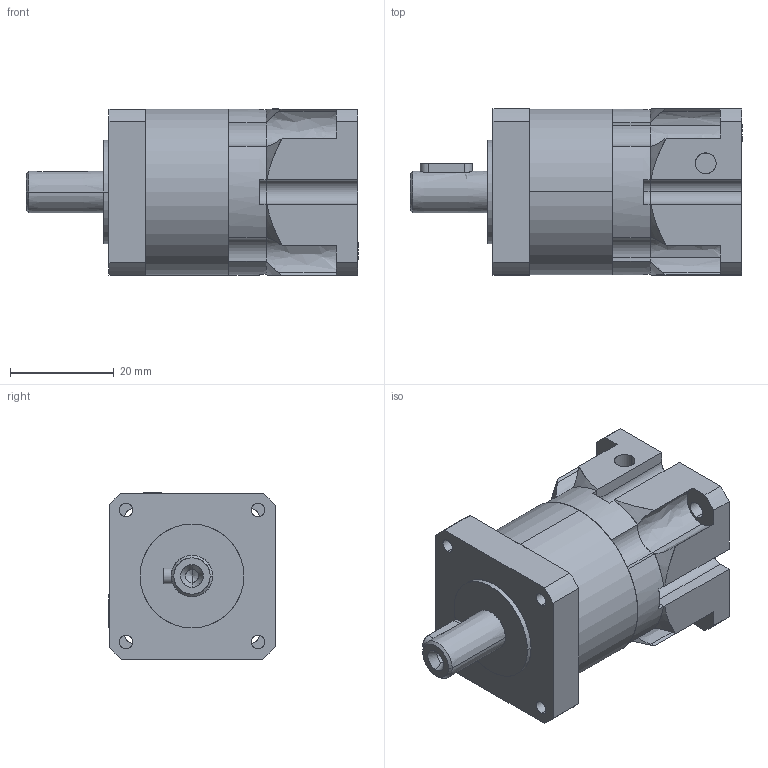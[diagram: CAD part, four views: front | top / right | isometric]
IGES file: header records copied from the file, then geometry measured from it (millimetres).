
Start section: SolidWorks IGES file using analytic representation for surfaces
Global section: file name: C:\Users\render\Documents\CAD Files\S-Gearboxes\SL-030-010\SL-030.IGS; native system: SolidWorks 2009; preprocessor: SolidWorks 2009; author: render; date: 100519.130642; units: millimetre
Bounding box: 64 x 32 x 32 mm (x, y, z)
Surface area: 13813.1 mm2 (no closed solid volume)
Topology: 0 solids, 0 shells, 177 faces, 3048 edges, 3038 vertices
Faces by surface type: revolution 111, bspline 66
